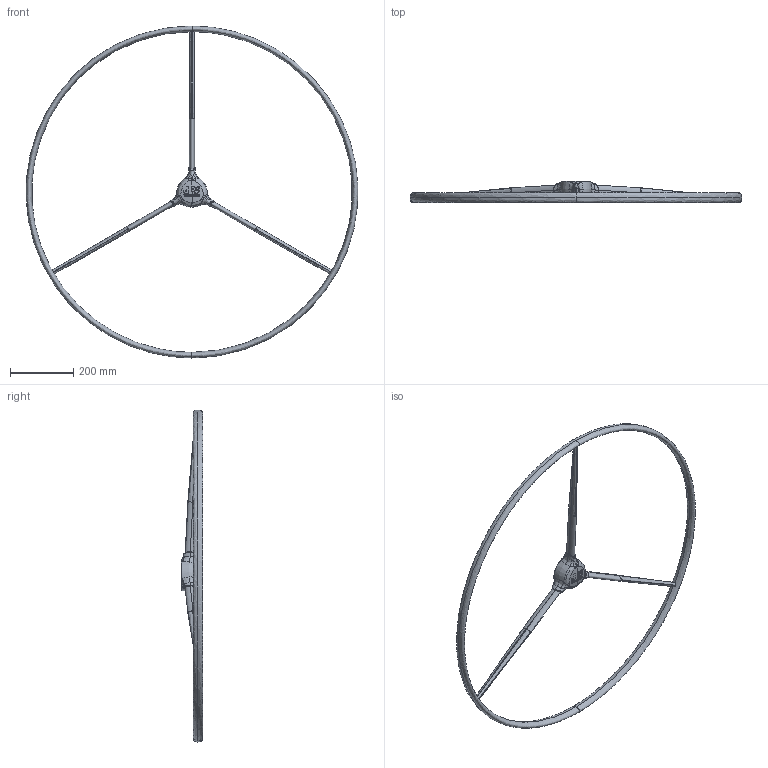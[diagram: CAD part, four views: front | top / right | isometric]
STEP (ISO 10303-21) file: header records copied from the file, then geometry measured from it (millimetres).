
FILE_DESCRIPTION(/* description */ (''),/* implementation_level */ '2;1');
FILE_NAME(/* name */ 'Roue_titanium_1050',/* time_stamp */ '2012-02-23T15:03:24+01:00',/* author */ (''),/* organization */ (''),/* preprocessor_version */ 'ST-DEVELOPER v10',/* originating_system */ '',/* authorisation */ '');
FILE_SCHEMA (('AUTOMOTIVE_DESIGN'));
Length unit declared in the file: millimetre
Products named in the file (1): 1
Bounding box: 1049.09 x 68.5 x 1050 mm (x, y, z)
Volume: 1769357.8 mm3; surface area: 490098.8 mm2
Topology: 5 solids, 20 shells, 207 faces, 632 edges, 450 vertices
Faces by surface type: bspline 207
Entity records: 27232 total; most frequent: CARTESIAN_POINT 23800, ORIENTED_EDGE 1131, EDGE_CURVE 621, VERTEX_POINT 439, B_SPLINE_CURVE_WITH_KNOTS 266, EDGE_LOOP 240, ADVANCED_FACE 207, FACE_OUTER_BOUND 207
